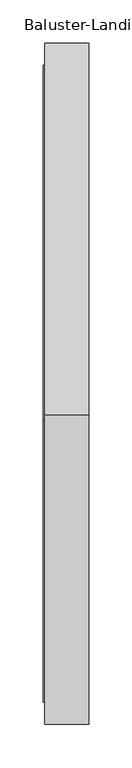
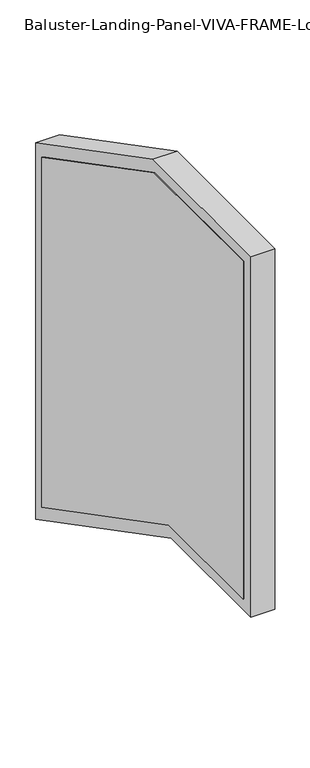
"""IFC4 building model written with IfcOpenShell, lengths in millimetres: railing geometry, Baluster-Landing-Panel-VIVA-FRAME-Lower : Standard_PP01."""

import ifcopenshell
import ifcopenshell.guid

model = None  # the IFC model being written
_history = None  # IfcOwnerHistory: only IFC2X3 demands one
_inside = {}  # id of a spatial element -> (the spatial element, [elements in it])
_under = {}  # id of a project, library or spatial element -> (it, [spatial elements below it])
_declared = {}  # id of a project -> (the project, [libraries it declares])
_typed = {}  # id of a type object -> (the type object, [elements of that type])
_made_of = {}  # id of a material, layer set ... -> (it, [elements and type objects made of it])


def new_model(schema):
    """Start an empty IFC model of exactly this schema.

    Asked for "IFC4X3", IfcOpenShell would pick the latest addendum, in which some entities
    have other attributes; the version numbers below select the first issue.
    IFC2X3 requires an IfcOwnerHistory on every rooted entity: one is made here for all.
    """
    global model, _history
    if schema == "IFC4X3":
        model = ifcopenshell.file(schema_version=(4, 3, 0, 0))
    else:
        model = ifcopenshell.file(schema=schema)
    _inside.clear()
    _under.clear()
    _declared.clear()
    _typed.clear()
    _made_of.clear()
    _history = None
    if model.schema == "IFC2X3":
        org = make("IfcOrganization", Name="unknown")
        user = make(
            "IfcPersonAndOrganization",
            ThePerson=make("IfcPerson", FamilyName="unknown"),
            TheOrganization=org,
        )
        app = make(
            "IfcApplication",
            ApplicationDeveloper=org,
            Version="unknown",
            ApplicationFullName="unknown",
            ApplicationIdentifier="unknown",
        )
        _history = make(
            "IfcOwnerHistory",
            OwningUser=user,
            OwningApplication=app,
            ChangeAction="ADDED",
            CreationDate=0,
        )
    return model


def make(cls, **values):
    """One entity of the class cls with the attributes given. An attribute that is None is left unset."""
    return model.create_entity(
        cls, **{name: value for name, value in values.items() if value is not None}
    )


def rooted(cls, **values):
    """An entity with a GlobalId (a new one), such as an element, a storey or a relation."""
    return make(cls, GlobalId=ifcopenshell.guid.new(), OwnerHistory=_history, **values)


def si_unit(unit_type, name, prefix=None):
    """IfcSIUnit, for example si_unit("LENGTHUNIT", "METRE", prefix="MILLI")."""
    return make("IfcSIUnit", UnitType=unit_type, Prefix=prefix, Name=name)


def assignment(units):
    """IfcUnitAssignment: the units of a project."""
    return None if units is None else make("IfcUnitAssignment", Units=units)


def point(xyz):
    """IfcCartesianPoint."""
    return None if xyz is None else make("IfcCartesianPoint", Coordinates=xyz)


def direction(xyz):
    """IfcDirection."""
    return None if xyz is None else make("IfcDirection", DirectionRatios=xyz)


def frame(location, z_axis=None, x_axis=None):
    """IfcAxis2Placement3D, a coordinate frame: its origin and axes. An axis left out is left unset."""
    return make(
        "IfcAxis2Placement3D",
        Location=point(location),
        Axis=direction(z_axis),
        RefDirection=direction(x_axis),
    )


def origin():
    """The frame at (0, 0, 0) with its axes left unset."""
    return frame((0.0, 0.0, 0.0))


def place(relative_to, where):
    """IfcLocalPlacement: puts the frame where relative to a parent placement (None: the world)."""
    return make(
        "IfcLocalPlacement", PlacementRelTo=relative_to, RelativePlacement=where
    )


def context(
    kind, dimensions, precision=None, world=None, true_north=None, identifier=None
):
    """IfcGeometricRepresentationContext, for example the 3D "Model" context."""
    return make(
        "IfcGeometricRepresentationContext",
        ContextIdentifier=identifier,
        ContextType=kind,
        CoordinateSpaceDimension=dimensions,
        Precision=precision,
        WorldCoordinateSystem=world,
        TrueNorth=true_north,
    )


def project(units=None, contexts=None):
    """IfcProject with its units and contexts."""
    return rooted(
        "IfcProject",
        Name="project",
        RepresentationContexts=contexts,
        UnitsInContext=assignment(units),
    )


def spatial(cls, under=None, at=None, **own):
    """A site, building, storey or space (cls), placed at a placement, below another one or the project."""
    s = rooted(cls, ObjectPlacement=at, **own)
    if under is not None:
        _under.setdefault(under.id(), (under, []))[1].append(s)
    return s


def polyline(points):
    """IfcPolyline through the points."""
    return make("IfcPolyline", Points=[point(p) for p in points])


def outline(outer, holes=None, kind="AREA"):
    """IfcArbitraryClosedProfileDef: a profile drawn as a closed curve; with holes, ...WithVoids."""
    if holes is None:
        return make("IfcArbitraryClosedProfileDef", ProfileType=kind, OuterCurve=outer)
    return make(
        "IfcArbitraryProfileDefWithVoids",
        ProfileType=kind,
        OuterCurve=outer,
        InnerCurves=holes,
    )


def extrude(swept, where, along, depth):
    """IfcExtrudedAreaSolid: the profile swept, set in the frame where, extruded along a direction by depth."""
    return make(
        "IfcExtrudedAreaSolid",
        SweptArea=swept,
        Position=where,
        ExtrudedDirection=direction(along),
        Depth=depth,
    )


def faces_of(points, faces, orient=None, outer=None):
    """IfcFace entities. A face is a list of loops; a loop is a list of indices into points, from 0.

    orient and outer hold one flag for each loop. By default every Orientation is true, the
    first loop of a face is its IfcFaceOuterBound and the others are IfcFaceBound.
    """
    made = []
    for i, loops in enumerate(faces):
        bounds = []
        for j, loop in enumerate(loops):
            is_outer = j == 0 if outer is None else outer[i][j]
            bounds.append(
                make(
                    "IfcFaceOuterBound" if is_outer else "IfcFaceBound",
                    Bound=make("IfcPolyLoop", Polygon=[points[k] for k in loop]),
                    Orientation=True if orient is None else orient[i][j],
                )
            )
        made.append(make("IfcFace", Bounds=bounds))
    return made


def faceted_brep(points, faces, orient=None, outer=None, voids=None):
    """IfcFacetedBrep: a solid bounded by flat faces; with voids (closed shells), ...WithVoids."""
    shared = [point(p) for p in points]
    hull = make("IfcClosedShell", CfsFaces=faces_of(shared, faces, orient, outer))
    if voids is None:
        return make("IfcFacetedBrep", Outer=hull)
    return make(
        "IfcFacetedBrepWithVoids",
        Outer=hull,
        Voids=[
            make(cls, CfsFaces=faces_of(shared, fs, o, b)) for cls, fs, o, b in voids
        ],
    )


def shape(context_of_items, identifier, shape_type, items):
    """IfcShapeRepresentation: the items that make up one representation, for example the "Body"."""
    return make(
        "IfcShapeRepresentation",
        ContextOfItems=context_of_items,
        RepresentationIdentifier=identifier,
        RepresentationType=shape_type,
        Items=items,
    )


def source(mapping_origin, context_of_items, identifier, shape_type, items):
    """IfcRepresentationMap: a shape defined once, which mapped items show again and again."""
    return make(
        "IfcRepresentationMap",
        MappingOrigin=mapping_origin,
        MappedRepresentation=shape(context_of_items, identifier, shape_type, items),
    )


def transform(
    local_origin,
    x_axis=None,
    y_axis=None,
    z_axis=None,
    scale=None,
    scale2=None,
    scale3=None,
    uniform=True,
):
    """IfcCartesianTransformationOperator3D, or its non-uniform kind. x_axis, y_axis, z_axis: its Axis1, 2, 3."""
    if uniform:
        return make(
            "IfcCartesianTransformationOperator3D",
            Axis1=direction(x_axis),
            Axis2=direction(y_axis),
            LocalOrigin=point(local_origin),
            Scale=scale,
            Axis3=direction(z_axis),
        )
    return make(
        "IfcCartesianTransformationOperator3DnonUniform",
        Axis1=direction(x_axis),
        Axis2=direction(y_axis),
        LocalOrigin=point(local_origin),
        Scale=scale,
        Axis3=direction(z_axis),
        Scale2=scale2,
        Scale3=scale3,
    )


def mapped(mapping_source, mapping_target):
    """IfcMappedItem: shows the shape of a source again, moved by a transform."""
    return make(
        "IfcMappedItem", MappingSource=mapping_source, MappingTarget=mapping_target
    )


def made_of(thing, what):
    """Note that an element or type object is made of a material, layer set ...; save() writes the relation."""
    if what is not None:
        _made_of.setdefault(what.id(), (what, []))[1].append(thing)
    return thing


def element(
    cls,
    number,
    at=None,
    inside=None,
    cuts=None,
    type_object=None,
    material=None,
    context=None,
    identifier="Body",
    shape_type=None,
    held_by="IfcProductDefinitionShape",
    body=None,
    shapes=None,
    **own,
):
    """One element of the class cls, such as IfcWall. Its Tag is "e" and its number.

    at: its placement. inside: the storey or other place that contains it. cuts: it is an
    opening in that element (IfcRelVoidsElement). A single representation is given by context,
    identifier, shape_type and body (its items); several are given by shapes. held_by: the class
    of the entity that holds the representations. save() writes the other relations.
    """
    e = rooted(cls, Tag="e%d" % number, ObjectPlacement=at, **own)
    if body is not None:
        shapes = [shape(context, identifier, shape_type, body)]
    if shapes is not None:
        e.Representation = make(held_by, Representations=shapes)
    if inside is not None:
        _inside.setdefault(inside.id(), (inside, []))[1].append(e)
    if cuts is not None:
        rooted(
            "IfcRelVoidsElement", RelatingBuildingElement=cuts, RelatedOpeningElement=e
        )
    if type_object is not None:
        _typed.setdefault(type_object.id(), (type_object, []))[1].append(e)
    return made_of(e, material)


def aggregate(whole, parts):
    """IfcRelAggregates: a whole, such as a stair, and the parts it consists of."""
    return rooted("IfcRelAggregates", RelatingObject=whole, RelatedObjects=parts)


def save(model, path):
    """Write the relations noted so far, then the file.

    IfcRelAggregates (storeys below a building ...), IfcRelContainedInSpatialStructure (elements
    in a storey), IfcRelDefinesByType, IfcRelAssociatesMaterial and IfcRelDeclares: one each for
    every whole, place, type object, material and project.
    """
    for whole, parts in _under.values():
        aggregate(whole, parts)
    for where, things in _inside.values():
        rooted(
            "IfcRelContainedInSpatialStructure",
            RelatedElements=things,
            RelatingStructure=where,
        )
    for kind, things in _typed.values():
        rooted("IfcRelDefinesByType", RelatedObjects=things, RelatingType=kind)
    for what, things in _made_of.values():
        rooted("IfcRelAssociatesMaterial", RelatedObjects=things, RelatingMaterial=what)
    for by, libraries in _declared.values():
        rooted("IfcRelDeclares", RelatingContext=by, RelatedDefinitions=libraries)
    model.write(path)


def baluster_landing_panel_viva_frame_lower_standard_pp01_bb39d073(model_context):
    return source(origin(), model_context, "Body", "SolidModel", [
        extrude(outline(polyline([(-488.850376, 153.6978972), (-760.2573138, 153.6978972), (-760.2573138, 906.145), (-434.563576, 906.145), (-25.4, 693.147924), (-25.4, -87.5590982), (-488.850376, 153.6978972)])), frame((14.2584857, 0.0, 0.0), z_axis=(1.0, 0.0, 0.0), x_axis=(0.0, 1.0, 0.0)), (0.0, 0.0, 1.0), 2.9972),
        faceted_brep([(35.6827057, -5.9329371, -119.639825), (66.4929057, -5.9329371, -119.639825), (66.4929057, -5.9329371, 704.9608278), (35.6827057, -5.9329371, 704.9608278), (15.6929057, -50.7385371, -45.8024814), (35.6827057, -50.7385371, -45.8024814), (35.6827057, -50.7385371, 677.7721223), (15.6929057, -50.7385371, 677.7721223), (66.4929057, 0.0614629, -129.5182905), (15.6929057, 0.0614629, -129.5182905), (15.6929057, 0.0614629, 708.598319), (66.4929057, 0.0614629, 708.598319), (66.4929057, -429.8000161, 925.6120629), (35.6827057, -429.8000161, 925.6120629), (35.6827057, -440.7638766, 880.8064629), (15.6929057, -440.7638766, 880.8064629), (15.6929057, -428.3331957, 931.6064629), (66.4929057, -428.3331957, 931.6064629), (66.4929057, -779.7243768, 925.6120629), (35.6827057, -779.7243768, 925.6120629), (35.6827057, -734.9187768, 880.8064629), (15.6929057, -734.9187768, 880.8064629), (15.6929057, -785.7187768, 931.6064629), (66.4929057, -785.7187768, 931.6064629), (66.4929057, -779.7243768, 134.2308342), (35.6827057, -779.7243768, 134.2308342), (35.6827057, -734.9187768, 179.0364342), (15.6929057, -734.9187768, 179.0364342), (15.6929057, -785.7187768, 128.2364342), (66.4929057, -785.7187768, 128.2364342), (66.4929057, -493.613936, 134.2308342), (35.6827057, -493.613936, 134.2308342), (35.6827057, -482.6500755, 179.0364342), (15.6929057, -482.6500755, 179.0364342), (15.6929057, -495.0807564, 128.2364342), (66.4929057, -495.0807564, 128.2364342)], [[[0, 1, 2, 3]], [[4, 5, 6, 7]], [[8, 9, 10, 11]], [[3, 2, 12, 13]], [[7, 6, 14, 15]], [[11, 10, 16, 17]], [[13, 12, 18, 19]], [[15, 14, 20, 21]], [[17, 16, 22, 23]], [[19, 18, 24, 25]], [[21, 20, 26, 27]], [[23, 22, 28, 29]], [[25, 24, 30, 31]], [[27, 26, 32, 33]], [[29, 28, 34, 35]], [[23, 29, 35, 8, 11, 17], [1, 30, 24, 18, 12, 2]], [[31, 30, 1, 0]], [[19, 25, 31, 0, 3, 13], [5, 32, 26, 20, 14, 6]], [[33, 32, 5, 4]], [[9, 34, 28, 22, 16, 10], [21, 27, 33, 4, 7, 15]], [[35, 34, 9, 8]]]),
    ])


if __name__ == "__main__":
    model = new_model("IFC4")
    model_context = context("Model", 3, world=origin())
    ifc_project = project(units=[si_unit("LENGTHUNIT", "METRE", prefix="MILLI")], contexts=[model_context])
    site = spatial("IfcSite", under=ifc_project)
    building = spatial("IfcBuilding", under=site)
    placement = place(None, origin())
    baluster_landing_panel_viva_frame_lower_standard_pp01_shape = baluster_landing_panel_viva_frame_lower_standard_pp01_bb39d073(model_context)
    element("IfcRailing", 1, ObjectType="Baluster-Landing-Panel-VIVA-FRAME-Lower : Standard_PP01", at=placement, inside=building, context=model_context, shape_type="MappedRepresentation", body=[
        mapped(baluster_landing_panel_viva_frame_lower_standard_pp01_shape, transform((0.0, 0.0, 0.0), x_axis=(1.0, 0.0, 0.0), y_axis=(0.0, 1.0, 0.0), z_axis=(0.0, 0.0, 1.0))),
    ])
    save(model, "model.ifc")
